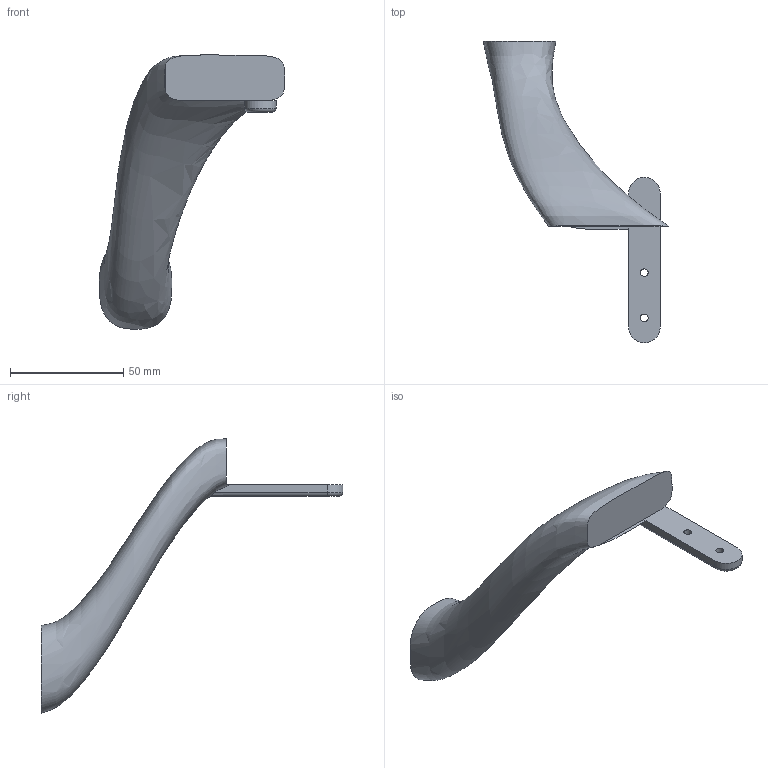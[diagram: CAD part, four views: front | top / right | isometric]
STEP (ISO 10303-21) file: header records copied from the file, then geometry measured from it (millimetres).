
FILE_DESCRIPTION(('Open CASCADE Model'),'2;1');
FILE_NAME('Open CASCADE Shape Model','2026-11-26T14:02:26',('Author'),( 'Open CASCADE'),'Open CASCADE STEP processor 7.9','Open CASCADE 7.9' ,'Unknown');
FILE_SCHEMA(('AUTOMOTIVE_DESIGN { 1 0 10303 214 1 1 1 1 }'));
Length unit declared in the file: millimetre
Products named in the file (1): Open CASCADE STEP translator 7.9 4
Bounding box: 81.93 x 133.3 x 121.09 mm (x, y, z)
Volume: 82531.9 mm3; surface area: 17139.4 mm2
Topology: 1 solids, 1 shells, 27 faces, 59 edges, 38 vertices
Faces by surface type: plane 13, cylinder 11, torus 2, bspline 1
Full cylindrical faces by diameter (mm): 3.4 x2, 4 x2, 6 x2
Entity records: 5988 total; most frequent: CARTESIAN_POINT 4820, DIRECTION 203, ORIENTED_EDGE 118, PCURVE 118, DEFINITIONAL_REPRESENTATION 118, LINE 101, VECTOR 101, EDGE_CURVE 59
